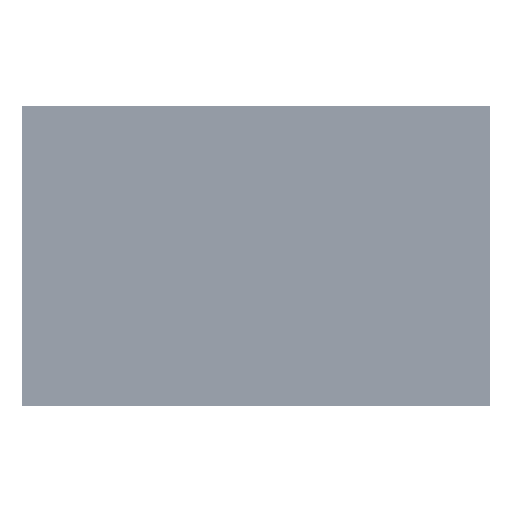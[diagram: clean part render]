
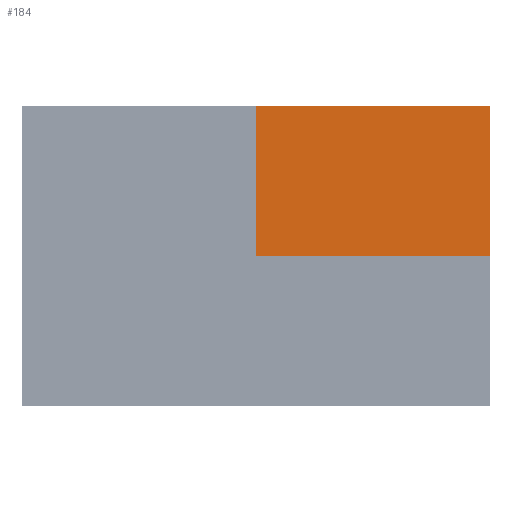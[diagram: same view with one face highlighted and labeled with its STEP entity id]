
A CAD part, top view. The second image highlights one B-rep face of the part: STEP entity #184.
In plain terms, the highlighted planar face has unit normal (0, 0, 1).
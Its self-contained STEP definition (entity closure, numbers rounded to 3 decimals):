
#184=ADVANCED_FACE($,(#598),#4016,.T.);
#598=FACE_OUTER_BOUND($,#960,.T.);
#960=EDGE_LOOP($,(#1722,#1723,#1724,#1725));
#1722=ORIENTED_EDGE($,*,*,#2890,.F.);
#1723=ORIENTED_EDGE($,*,*,#2887,.F.);
#1724=ORIENTED_EDGE($,*,*,#2903,.F.);
#1725=ORIENTED_EDGE($,*,*,#2898,.F.);
#2887=EDGE_CURVE($,#3507,#3509,#4239,.T.);
#2890=EDGE_CURVE($,#3509,#3515,#4242,.T.);
#2898=EDGE_CURVE($,#3515,#3512,#4250,.T.);
#2903=EDGE_CURVE($,#3512,#3507,#4255,.T.);
#3507=VERTEX_POINT($,#9281);
#3509=VERTEX_POINT($,#9283);
#3512=VERTEX_POINT($,#9286);
#3515=VERTEX_POINT($,#9289);
#4016=PLANE($,#4934);
#4239=B_SPLINE_CURVE_WITH_KNOTS($,1,(#9178,#9179),.UNSPECIFIED.,.F.,.F.,
(2,2),(0.,400.),.UNSPECIFIED.);
#4242=B_SPLINE_CURVE_WITH_KNOTS($,3,(#9186,#9187,#9188,#9189),.UNSPECIFIED.,
.F.,.F.,(4,4),(0.,625.),.UNSPECIFIED.);
#4250=B_SPLINE_CURVE_WITH_KNOTS($,3,(#9208,#9209,#9210,#9211),.UNSPECIFIED.,
.F.,.F.,(4,4),(-400.,0.),.UNSPECIFIED.);
#4255=B_SPLINE_CURVE_WITH_KNOTS($,1,(#9226,#9227),.UNSPECIFIED.,.F.,.F.,
(2,2),(1175.,1800.),.UNSPECIFIED.);
#4934=AXIS2_PLACEMENT_3D($,#9268,#5059,$);
#5059=DIRECTION($,(0.,0.,1.));
#9178=CARTESIAN_POINT($,(1644.5,729.,746.));
#9179=CARTESIAN_POINT($,(1644.5,329.,746.));
#9186=CARTESIAN_POINT($,(1644.5,329.,746.));
#9187=CARTESIAN_POINT($,(1436.167,329.,746.));
#9188=CARTESIAN_POINT($,(1227.833,329.,746.));
#9189=CARTESIAN_POINT($,(1019.5,329.,746.));
#9208=CARTESIAN_POINT($,(1019.5,329.,746.));
#9209=CARTESIAN_POINT($,(1019.5,462.333,746.));
#9210=CARTESIAN_POINT($,(1019.5,595.667,746.));
#9211=CARTESIAN_POINT($,(1019.5,729.,746.));
#9226=CARTESIAN_POINT($,(1019.5,729.,746.));
#9227=CARTESIAN_POINT($,(1644.5,729.,746.));
#9268=CARTESIAN_POINT($,(1019.5,329.,746.));
#9281=CARTESIAN_POINT($,(1644.5,729.,746.));
#9283=CARTESIAN_POINT($,(1644.5,329.,746.));
#9286=CARTESIAN_POINT($,(1019.5,729.,746.));
#9289=CARTESIAN_POINT($,(1019.5,329.,746.));
